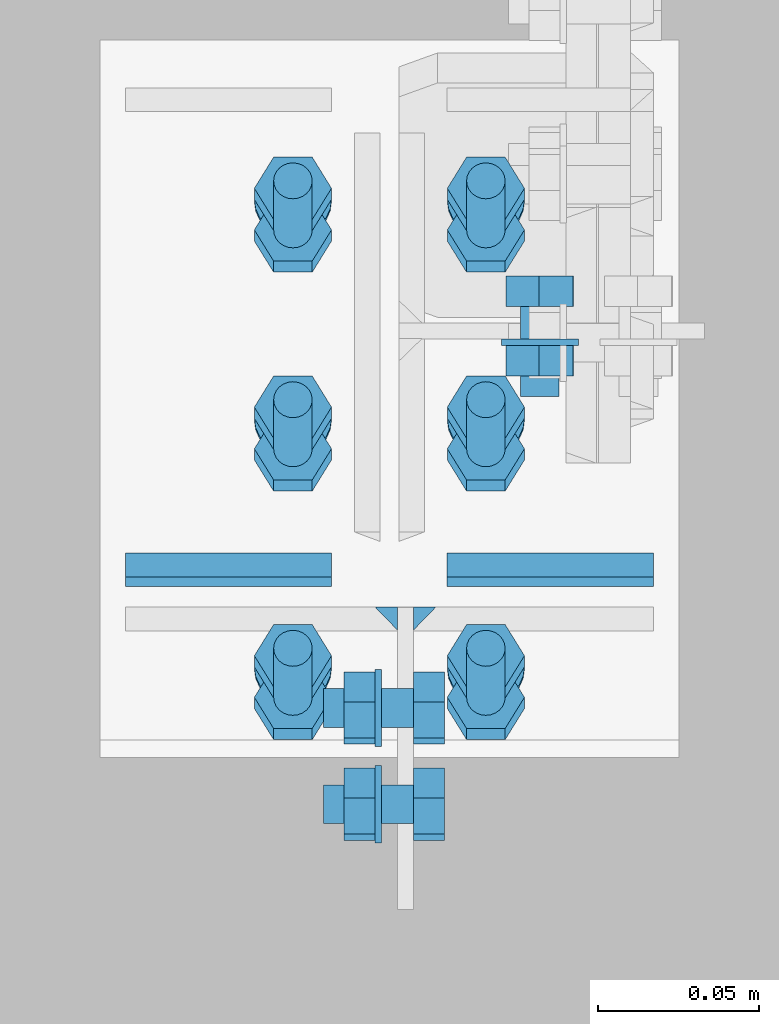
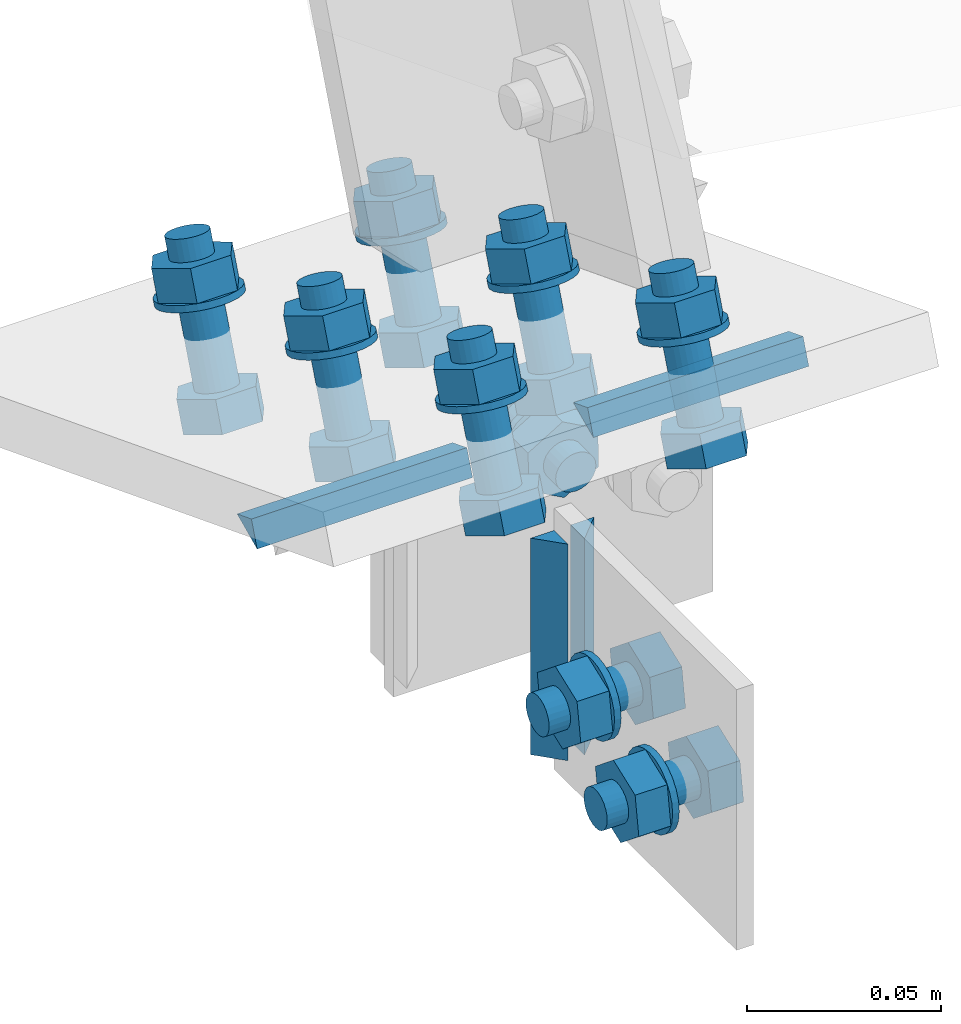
# One storey, part 40 of 72: 36 mechanical fasteners, 6 fasteners.
"""IFC4 building model written with IfcOpenShell, lengths in metres."""

import ifcopenshell
import ifcopenshell.guid

model = None  # the IFC model being written
_history = None  # IfcOwnerHistory: only IFC2X3 demands one
_inside = {}  # id of a spatial element -> (the spatial element, [elements in it])
_under = {}  # id of a project, library or spatial element -> (it, [spatial elements below it])
_declared = {}  # id of a project -> (the project, [libraries it declares])
_typed = {}  # id of a type object -> (the type object, [elements of that type])
_made_of = {}  # id of a material, layer set ... -> (it, [elements and type objects made of it])


def new_model(schema):
    """Start an empty IFC model of exactly this schema.

    Asked for "IFC4X3", IfcOpenShell would pick the latest addendum, in which some entities
    have other attributes; the version numbers below select the first issue.
    IFC2X3 requires an IfcOwnerHistory on every rooted entity: one is made here for all.
    """
    global model, _history
    if schema == "IFC4X3":
        model = ifcopenshell.file(schema_version=(4, 3, 0, 0))
    else:
        model = ifcopenshell.file(schema=schema)
    _inside.clear()
    _under.clear()
    _declared.clear()
    _typed.clear()
    _made_of.clear()
    _history = None
    if model.schema == "IFC2X3":
        org = make("IfcOrganization", Name="unknown")
        user = make(
            "IfcPersonAndOrganization",
            ThePerson=make("IfcPerson", FamilyName="unknown"),
            TheOrganization=org,
        )
        app = make(
            "IfcApplication",
            ApplicationDeveloper=org,
            Version="unknown",
            ApplicationFullName="unknown",
            ApplicationIdentifier="unknown",
        )
        _history = make(
            "IfcOwnerHistory",
            OwningUser=user,
            OwningApplication=app,
            ChangeAction="ADDED",
            CreationDate=0,
        )
    return model


def make(cls, **values):
    """One entity of the class cls with the attributes given. An attribute that is None is left unset."""
    return model.create_entity(
        cls, **{name: value for name, value in values.items() if value is not None}
    )


def rooted(cls, **values):
    """An entity with a GlobalId (a new one), such as an element, a storey or a relation."""
    return make(cls, GlobalId=ifcopenshell.guid.new(), OwnerHistory=_history, **values)


def si_unit(unit_type, name, prefix=None):
    """IfcSIUnit, for example si_unit("LENGTHUNIT", "METRE", prefix="MILLI")."""
    return make("IfcSIUnit", UnitType=unit_type, Prefix=prefix, Name=name)


def assignment(units):
    """IfcUnitAssignment: the units of a project."""
    return None if units is None else make("IfcUnitAssignment", Units=units)


def point(xyz):
    """IfcCartesianPoint."""
    return None if xyz is None else make("IfcCartesianPoint", Coordinates=xyz)


def direction(xyz):
    """IfcDirection."""
    return None if xyz is None else make("IfcDirection", DirectionRatios=xyz)


def frame(location, z_axis=None, x_axis=None):
    """IfcAxis2Placement3D, a coordinate frame: its origin and axes. An axis left out is left unset."""
    return make(
        "IfcAxis2Placement3D",
        Location=point(location),
        Axis=direction(z_axis),
        RefDirection=direction(x_axis),
    )


def origin_with_axes():
    """The frame at (0, 0, 0) with the z axis (0, 0, 1) and the x axis (1, 0, 0) written out."""
    return frame((0.0, 0.0, 0.0), z_axis=(0.0, 0.0, 1.0), x_axis=(1.0, 0.0, 0.0))


def place(relative_to, where):
    """IfcLocalPlacement: puts the frame where relative to a parent placement (None: the world)."""
    return make(
        "IfcLocalPlacement", PlacementRelTo=relative_to, RelativePlacement=where
    )


def context(
    kind, dimensions, precision=None, world=None, true_north=None, identifier=None
):
    """IfcGeometricRepresentationContext, for example the 3D "Model" context."""
    return make(
        "IfcGeometricRepresentationContext",
        ContextIdentifier=identifier,
        ContextType=kind,
        CoordinateSpaceDimension=dimensions,
        Precision=precision,
        WorldCoordinateSystem=world,
        TrueNorth=true_north,
    )


def project(units=None, contexts=None):
    """IfcProject with its units and contexts."""
    return rooted(
        "IfcProject",
        Name="project",
        RepresentationContexts=contexts,
        UnitsInContext=assignment(units),
    )


def spatial(cls, under=None, at=None, **own):
    """A site, building, storey or space (cls), placed at a placement, below another one or the project."""
    s = rooted(cls, ObjectPlacement=at, **own)
    if under is not None:
        _under.setdefault(under.id(), (under, []))[1].append(s)
    return s


def polyline(points):
    """IfcPolyline through the points."""
    return make("IfcPolyline", Points=[point(p) for p in points])


def outline(outer, holes=None, kind="AREA"):
    """IfcArbitraryClosedProfileDef: a profile drawn as a closed curve; with holes, ...WithVoids."""
    if holes is None:
        return make("IfcArbitraryClosedProfileDef", ProfileType=kind, OuterCurve=outer)
    return make(
        "IfcArbitraryProfileDefWithVoids",
        ProfileType=kind,
        OuterCurve=outer,
        InnerCurves=holes,
    )


def extrude(swept, where, along, depth):
    """IfcExtrudedAreaSolid: the profile swept, set in the frame where, extruded along a direction by depth."""
    return make(
        "IfcExtrudedAreaSolid",
        SweptArea=swept,
        Position=where,
        ExtrudedDirection=direction(along),
        Depth=depth,
    )


def shape(context_of_items, identifier, shape_type, items):
    """IfcShapeRepresentation: the items that make up one representation, for example the "Body"."""
    return make(
        "IfcShapeRepresentation",
        ContextOfItems=context_of_items,
        RepresentationIdentifier=identifier,
        RepresentationType=shape_type,
        Items=items,
    )


def made_of(thing, what):
    """Note that an element or type object is made of a material, layer set ...; save() writes the relation."""
    if what is not None:
        _made_of.setdefault(what.id(), (what, []))[1].append(thing)
    return thing


def type_object(cls, material=None, **own):
    """A type object (cls), such as IfcWallType, which elements share."""
    return made_of(rooted(cls, **own), material)


def element(
    cls,
    number,
    at=None,
    inside=None,
    cuts=None,
    type_object=None,
    material=None,
    context=None,
    identifier="Body",
    shape_type=None,
    held_by="IfcProductDefinitionShape",
    body=None,
    shapes=None,
    **own,
):
    """One element of the class cls, such as IfcWall. Its Tag is "e" and its number.

    at: its placement. inside: the storey or other place that contains it. cuts: it is an
    opening in that element (IfcRelVoidsElement). A single representation is given by context,
    identifier, shape_type and body (its items); several are given by shapes. held_by: the class
    of the entity that holds the representations. save() writes the other relations.
    """
    e = rooted(cls, Tag="e%d" % number, ObjectPlacement=at, **own)
    if body is not None:
        shapes = [shape(context, identifier, shape_type, body)]
    if shapes is not None:
        e.Representation = make(held_by, Representations=shapes)
    if inside is not None:
        _inside.setdefault(inside.id(), (inside, []))[1].append(e)
    if cuts is not None:
        rooted(
            "IfcRelVoidsElement", RelatingBuildingElement=cuts, RelatedOpeningElement=e
        )
    if type_object is not None:
        _typed.setdefault(type_object.id(), (type_object, []))[1].append(e)
    return made_of(e, material)


def aggregate(whole, parts):
    """IfcRelAggregates: a whole, such as a stair, and the parts it consists of."""
    return rooted("IfcRelAggregates", RelatingObject=whole, RelatedObjects=parts)


def save(model, path):
    """Write the relations noted so far, then the file.

    IfcRelAggregates (storeys below a building ...), IfcRelContainedInSpatialStructure (elements
    in a storey), IfcRelDefinesByType, IfcRelAssociatesMaterial and IfcRelDeclares: one each for
    every whole, place, type object, material and project.
    """
    for whole, parts in _under.values():
        aggregate(whole, parts)
    for where, things in _inside.values():
        rooted(
            "IfcRelContainedInSpatialStructure",
            RelatedElements=things,
            RelatingStructure=where,
        )
    for kind, things in _typed.values():
        rooted("IfcRelDefinesByType", RelatedObjects=things, RelatingType=kind)
    for what, things in _made_of.values():
        rooted("IfcRelAssociatesMaterial", RelatedObjects=things, RelatingMaterial=what)
    for by, libraries in _declared.values():
        rooted("IfcRelDeclares", RelatingContext=by, RelatedDefinitions=libraries)
    model.write(path)


model = new_model("IFC4")

# Units and contexts
model_context = context("Model", 3, precision=1e-05, world=origin_with_axes())
ifc_project = project(units=[si_unit("LENGTHUNIT", "METRE"), si_unit("AREAUNIT", "SQUARE_METRE"), si_unit("VOLUMEUNIT", "CUBIC_METRE"), si_unit("MASSUNIT", "GRAM", prefix="KILO"), si_unit("TIMEUNIT", "SECOND"), si_unit("PLANEANGLEUNIT", "RADIAN"), si_unit("SOLIDANGLEUNIT", "STERADIAN"), si_unit("THERMODYNAMICTEMPERATUREUNIT", "DEGREE_CELSIUS")], contexts=[model_context])

# Site, building, storey
placement_1 = place(None, origin_with_axes())
site = spatial("IfcSite", under=ifc_project, at=placement_1, Name="Italia", CompositionType="ELEMENT")
building = spatial("IfcBuilding", under=site, at=placement_1, Name="Uffici", CompositionType="ELEMENT")
storey = spatial("IfcBuildingStorey", under=building, at=placement_1, Name="Storey 0", CompositionType="ELEMENT", Elevation=0.0)

# Mechanical fasteners
mechanical_fastener_type_1 = type_object("IfcMechanicalFastenerType", Name="Collegamento 0206_0101", PredefinedType="BOLT")
placement_2 = place(placement_1, origin_with_axes())
mechanical_fastener_1_placement = place(placement_2, origin_with_axes())
element("IfcMechanicalFastener", 1, at=mechanical_fastener_1_placement, inside=storey, type_object=mechanical_fastener_type_1, Name="Collegamento 0206_0101", NominalDiameter=0.0119996, context=model_context, shape_type="SweptSolid", body=[
    extrude(outline(polyline([(0.0, 0.0), (0.01122, 0.00425482), (0.0131454, 0.0160995), (0.00385046, 0.0236893), (-0.00737, 0.019434), (-0.00929546, 0.00758934), (0.0, 0.0)])), frame((0.0075, 4.69577, 5.0804), z_axis=(1.0, 0.0, 0.0), x_axis=(0.0, 1.0, 0.0)), (0.0, 0.0, 1.0), 0.0096),
])
mechanical_fastener_type_2 = type_object("IfcMechanicalFastenerType", Name="Collegamento 0206_0101", PredefinedType="BOLT")
mechanical_fastener_2_placement = place(placement_2, origin_with_axes())
element("IfcMechanicalFastener", 2, at=mechanical_fastener_2_placement, inside=storey, type_object=mechanical_fastener_type_2, Name="Collegamento 0206_0101", NominalDiameter=0.012, context=model_context, shape_type="SweptSolid", body=[
    extrude(outline(polyline([(0.0, 0.0), (-0.000204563, -0.00155306), (-0.000803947, -0.00299978), (-0.00175762, -0.00424242), (-0.00300026, -0.00519609), (-0.00444698, -0.00579548), (-0.00600004, -0.00600004), (-0.0075531, -0.00579548), (-0.00899982, -0.00519609), (-0.0102425, -0.00424242), (-0.0111961, -0.00299978), (-0.0117955, -0.00155306), (-0.0120001, 0.0), (-0.0117955, 0.00155306), (-0.0111961, 0.00299978), (-0.0102425, 0.00424242), (-0.00899982, 0.00519609), (-0.0075531, 0.00579548), (-0.00600004, 0.00600004), (-0.00444698, 0.00579548), (-0.00300026, 0.00519609), (-0.00175762, 0.00424242), (-0.000803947, 0.00299978), (-0.000204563, 0.00155306), (0.0, 0.0)])), frame((-0.0205, 4.7037, 5.09225), z_axis=(1.0, 0.0, 0.0), x_axis=(0.0, 1.0, 0.0)), (0.0, 0.0, 1.0), 0.028),
])
mechanical_fastener_type_3 = type_object("IfcMechanicalFastenerType", Name="Collegamento 0206_0101", PredefinedType="BOLT")
mechanical_fastener_3_placement = place(placement_2, origin_with_axes())
element("IfcMechanicalFastener", 3, at=mechanical_fastener_3_placement, inside=storey, type_object=mechanical_fastener_type_3, Name="Collegamento 0206_0101", NominalDiameter=0.0119996, context=model_context, shape_type="SweptSolid", body=[
    extrude(outline(polyline([(0.0, 0.0), (0.01122, 0.00425482), (0.0131454, 0.0160995), (0.00385046, 0.0236893), (-0.00737, 0.019434), (-0.00929546, 0.00758934), (0.0, 0.0)])), frame((-0.0141, 4.69577, 5.0804), z_axis=(1.0, 0.0, 0.0), x_axis=(0.0, 1.0, 0.0)), (0.0, 0.0, 1.0), 0.0096),
])
mechanical_fastener_type_4 = type_object("IfcMechanicalFastenerType", Name="Collegamento 0206_0101", PredefinedType="BOLT")
mechanical_fastener_4_placement = place(placement_2, origin_with_axes())
element("IfcMechanicalFastener", 4, at=mechanical_fastener_4_placement, inside=storey, type_object=mechanical_fastener_type_4, Name="Collegamento 0206_0101", NominalDiameter=0.024, context=model_context, shape_type="SweptSolid", body=[
    extrude(outline(polyline([(0.0, 0.0), (-0.000409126, -0.00310564), (-0.00160789, -0.00600004), (-0.00351477, -0.00848532), (-0.00600004, -0.0103922), (-0.00889444, -0.011591), (-0.0120001, -0.0120001), (-0.0151057, -0.011591), (-0.0180001, -0.0103922), (-0.0204854, -0.00848532), (-0.0223923, -0.00600004), (-0.023591, -0.00310564), (-0.0240002, 0.0), (-0.023591, 0.00310564), (-0.0223923, 0.00600004), (-0.0204854, 0.00848532), (-0.0180001, 0.0103922), (-0.0151057, 0.011591), (-0.0120001, 0.0120001), (-0.00889444, 0.011591), (-0.00600004, 0.0103922), (-0.00351477, 0.00848532), (-0.00160789, 0.00600004), (-0.000409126, 0.00310564), (0.0, 0.0)])), frame((-0.0045, 4.7097, 5.09225), z_axis=(1.0, 0.0, 0.0), x_axis=(0.0, 1.0, 0.0)), (0.0, 0.0, 1.0), 0.002),
])
mechanical_fastener_type_5 = type_object("IfcMechanicalFastenerType", Name="Collegamento 0206_0101", PredefinedType="BOLT")
mechanical_fastener_5_placement = place(placement_2, origin_with_axes())
element("IfcMechanicalFastener", 5, at=mechanical_fastener_5_placement, inside=storey, type_object=mechanical_fastener_type_5, Name="Collegamento 0206_0101", NominalDiameter=0.0119996, context=model_context, shape_type="SweptSolid", body=[
    extrude(outline(polyline([(0.0, 0.0), (0.0112205, 0.00425529), (0.0131454, 0.0160995), (0.00385046, 0.0236893), (-0.00736952, 0.0194345), (-0.00929499, 0.00758982), (0.0, 0.0)])), frame((0.0075, 4.66585, 5.06906), z_axis=(1.0, 0.0, 0.0), x_axis=(0.0, 1.0, 0.0)), (0.0, 0.0, 1.0), 0.0096),
])
mechanical_fastener_type_6 = type_object("IfcMechanicalFastenerType", Name="Collegamento 0206_0101", PredefinedType="BOLT")
mechanical_fastener_6_placement = place(placement_2, origin_with_axes())
element("IfcMechanicalFastener", 6, at=mechanical_fastener_6_placement, inside=storey, type_object=mechanical_fastener_type_6, Name="Collegamento 0206_0101", NominalDiameter=0.012, context=model_context, shape_type="SweptSolid", body=[
    extrude(outline(polyline([(0.0, 0.0), (-0.000204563, -0.00155306), (-0.000803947, -0.00299978), (-0.00175762, -0.00424242), (-0.00300026, -0.00519609), (-0.00444698, -0.00579548), (-0.00600004, -0.00600004), (-0.0075531, -0.00579548), (-0.00899982, -0.00519609), (-0.0102425, -0.00424242), (-0.0111961, -0.00299978), (-0.0117955, -0.00155306), (-0.0120001, 0.0), (-0.0117955, 0.00155306), (-0.0111961, 0.00299978), (-0.0102425, 0.00424242), (-0.00899982, 0.00519609), (-0.0075531, 0.00579548), (-0.00600004, 0.00600004), (-0.00444698, 0.00579548), (-0.00300026, 0.00519609), (-0.00175762, 0.00424242), (-0.000803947, 0.00299978), (-0.000204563, 0.00155306), (0.0, 0.0)])), frame((-0.0205, 4.67377, 5.0809), z_axis=(1.0, 0.0, 0.0), x_axis=(0.0, 1.0, 0.0)), (0.0, 0.0, 1.0), 0.028),
])
mechanical_fastener_type_7 = type_object("IfcMechanicalFastenerType", Name="Collegamento 0206_0101", PredefinedType="BOLT")
mechanical_fastener_7_placement = place(placement_2, origin_with_axes())
element("IfcMechanicalFastener", 7, at=mechanical_fastener_7_placement, inside=storey, type_object=mechanical_fastener_type_7, Name="Collegamento 0206_0101", NominalDiameter=0.0119996, context=model_context, shape_type="SweptSolid", body=[
    extrude(outline(polyline([(0.0, 0.0), (0.0112205, 0.00425529), (0.0131454, 0.0160995), (0.00385046, 0.0236893), (-0.00736952, 0.0194345), (-0.00929499, 0.00758982), (0.0, 0.0)])), frame((-0.0141, 4.66585, 5.06906), z_axis=(1.0, 0.0, 0.0), x_axis=(0.0, 1.0, 0.0)), (0.0, 0.0, 1.0), 0.0096),
])
mechanical_fastener_type_8 = type_object("IfcMechanicalFastenerType", Name="Collegamento 0206_0101", PredefinedType="BOLT")
mechanical_fastener_8_placement = place(placement_2, origin_with_axes())
element("IfcMechanicalFastener", 8, at=mechanical_fastener_8_placement, inside=storey, type_object=mechanical_fastener_type_8, Name="Collegamento 0206_0101", NominalDiameter=0.024, context=model_context, shape_type="SweptSolid", body=[
    extrude(outline(polyline([(0.0, 0.0), (-0.000409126, -0.00310564), (-0.00160789, -0.00600004), (-0.00351477, -0.00848532), (-0.00600004, -0.0103922), (-0.00889444, -0.011591), (-0.0120001, -0.0120001), (-0.0151057, -0.011591), (-0.0180001, -0.0103922), (-0.0204854, -0.00848532), (-0.0223923, -0.00600004), (-0.023591, -0.00310564), (-0.0240002, 0.0), (-0.023591, 0.00310564), (-0.0223923, 0.00600004), (-0.0204854, 0.00848532), (-0.0180001, 0.0103922), (-0.0151057, 0.011591), (-0.0120001, 0.0120001), (-0.00889444, 0.011591), (-0.00600004, 0.0103922), (-0.00351477, 0.00848532), (-0.00160789, 0.00600004), (-0.000409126, 0.00310564), (0.0, 0.0)])), frame((-0.0045, 4.67977, 5.0809), z_axis=(1.0, 0.0, 0.0), x_axis=(0.0, 1.0, 0.0)), (0.0, 0.0, 1.0), 0.002),
])

# Fasteners
fastener_type_1 = type_object("IfcFastenerType", Name="Collegamento 0206_0101", PredefinedType="WELD")
fastener_1_placement = place(placement_2, origin_with_axes())
element("IfcFastener", 9, at=fastener_1_placement, inside=storey, type_object=fastener_type_1, Name="Collegamento 0206_0101", context=model_context, shape_type="SweptSolid", body=[
    extrude(outline(polyline([(0.0, 0.0), (-0.00717354, 0.00695816), (0.0, 0.00695816), (0.0, 0.0)])), frame((-0.00440816, 4.72905, 5.12317), z_axis=(0.0, 0.0, -1.0), x_axis=(0.0, 1.0, 0.0)), (0.0, 0.0, 1.0), 0.0681),
])
fastener_type_2 = type_object("IfcFastenerType", Name="Collegamento 0206_0101", PredefinedType="WELD")
fastener_2_placement = place(placement_2, origin_with_axes())
element("IfcFastener", 10, at=fastener_2_placement, inside=storey, type_object=fastener_type_2, Name="Collegamento 0206_0101", context=model_context, shape_type="SweptSolid", body=[
    extrude(outline(polyline([(0.0, 0.0), (-0.00717354, 0.00695816), (0.0, 0.00695816), (0.0, 0.0)])), frame((0.0144082, 4.72905, 5.05507), z_axis=(0.0, 0.0, 1.0), x_axis=(0.0, 1.0, 0.0)), (0.0, 0.0, 1.0), 0.0681005),
])
fastener_type_3 = type_object("IfcFastenerType", Name="Collegamento 0206_0106", PredefinedType="WELD")
fastener_3_placement = place(placement_2, origin_with_axes())
element("IfcFastener", 11, at=fastener_3_placement, inside=storey, type_object=fastener_type_3, Name="Collegamento 0206_0106", context=model_context, shape_type="SweptSolid", body=[
    extrude(outline(polyline([(0.0, 0.0), (-0.0103469, -0.00475407), (-0.00739193, 0.00286627), (0.0, 0.0)])), frame((0.01795, 4.74586, 5.14777), z_axis=(1.0, 0.0, 0.0), x_axis=(0.0, 1.0, 0.0)), (0.0, 0.0, 1.0), 0.0641),
])
fastener_type_4 = type_object("IfcFastenerType", Name="Collegamento 0206_0106", PredefinedType="WELD")
fastener_4_placement = place(placement_2, origin_with_axes())
element("IfcFastener", 12, at=fastener_4_placement, inside=storey, type_object=fastener_type_4, Name="Collegamento 0206_0106", context=model_context, shape_type="SweptSolid", body=[
    extrude(outline(polyline([(0.0, 0.0), (-0.0103469, -0.00475407), (-0.00739193, 0.00286627), (0.0, 0.0)])), frame((-0.08205, 4.74586, 5.14777), z_axis=(1.0, 0.0, 0.0), x_axis=(0.0, 1.0, 0.0)), (0.0, 0.0, 1.0), 0.0641),
])
fastener_type_5 = type_object("IfcFastenerType", Name="Collegamento 0206_0106", PredefinedType="WELD")
fastener_5_placement = place(placement_2, origin_with_axes())
element("IfcFastener", 13, at=fastener_5_placement, inside=storey, type_object=fastener_type_5, Name="Collegamento 0206_0106", context=model_context, shape_type="SweptSolid", body=[
    extrude(outline(polyline([(0.0, 0.0), (-0.0103469, -0.00475407), (-0.00739193, 0.00286627), (0.0, 0.0)])), frame((0.01795, 4.74586, 5.14777), z_axis=(1.0, 0.0, 0.0), x_axis=(0.0, 1.0, 0.0)), (0.0, 0.0, 1.0), 0.0641),
])
fastener_type_6 = type_object("IfcFastenerType", Name="Collegamento 0206_0106", PredefinedType="WELD")
fastener_6_placement = place(placement_2, origin_with_axes())
element("IfcFastener", 14, at=fastener_6_placement, inside=storey, type_object=fastener_type_6, Name="Collegamento 0206_0106", context=model_context, shape_type="SweptSolid", body=[
    extrude(outline(polyline([(0.0, 0.0), (-0.0103469, -0.00475407), (-0.00739193, 0.00286627), (0.0, 0.0)])), frame((-0.08205, 4.74586, 5.14777), z_axis=(1.0, 0.0, 0.0), x_axis=(0.0, 1.0, 0.0)), (0.0, 0.0, 1.0), 0.0641),
])

# Mechanical fasteners
mechanical_fastener_type_9 = type_object("IfcMechanicalFastenerType", Name="Collegamento 0206_0106", PredefinedType="BOLT")
mechanical_fastener_9_placement = place(placement_2, origin_with_axes())
element("IfcMechanicalFastener", 15, at=mechanical_fastener_9_placement, inside=storey, type_object=mechanical_fastener_type_9, Name="Collegamento 0206_0106", NominalDiameter=0.0119999, context=model_context, shape_type="SweptSolid", body=[
    extrude(outline(polyline([(0.0, 0.0), (0.012, 0.0), (0.018, -0.0103922), (0.012, -0.0207846), (0.0, -0.0207846), (-0.006, -0.0103922), (0.0, 0.0)])), frame((0.024, 4.76862, 5.1389), z_axis=(0.0, -0.361504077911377, -0.932370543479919), x_axis=(1.0, 0.0, 0.0)), (0.0, 0.0, 1.0), 0.00959995),
])
mechanical_fastener_type_10 = type_object("IfcMechanicalFastenerType", Name="Collegamento 0206_0106", PredefinedType="BOLT")
mechanical_fastener_10_placement = place(placement_2, origin_with_axes())
element("IfcMechanicalFastener", 16, at=mechanical_fastener_10_placement, inside=storey, type_object=mechanical_fastener_type_10, Name="Collegamento 0206_0106", NominalDiameter=0.012, context=model_context, shape_type="SweptSolid", body=[
    extrude(outline(polyline([(0.0, 0.0), (-0.000204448, -0.00155282), (-0.000803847, -0.00300002), (-0.00175736, -0.00424314), (-0.003, -0.00519633), (-0.00444709, -0.00579524), (-0.006, -0.0059998), (-0.00755292, -0.00579524), (-0.009, -0.00519633), (-0.0102426, -0.00424314), (-0.0111962, -0.00300002), (-0.0117956, -0.00155282), (-0.012, 0.0), (-0.0117956, 0.00155282), (-0.0111962, 0.00300002), (-0.0102426, 0.0042429), (-0.009, 0.00519633), (-0.00755291, 0.00579572), (-0.006, 0.0059998), (-0.00444709, 0.00579572), (-0.003, 0.00519633), (-0.00175736, 0.0042429), (-0.000803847, 0.00300002), (-0.000204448, 0.00155282), (0.0, 0.0)])), frame((0.036, 4.79357, 5.17448), z_axis=(0.0, -0.361535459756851, -0.932358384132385), x_axis=(1.0, 0.0, 0.0)), (0.0, 0.0, 1.0), 0.0422002),
])
mechanical_fastener_type_11 = type_object("IfcMechanicalFastenerType", Name="Collegamento 0206_0106", PredefinedType="BOLT")
mechanical_fastener_11_placement = place(placement_2, origin_with_axes())
element("IfcMechanicalFastener", 17, at=mechanical_fastener_11_placement, inside=storey, type_object=mechanical_fastener_type_11, Name="Collegamento 0206_0106", NominalDiameter=0.0119999, context=model_context, shape_type="SweptSolid", body=[
    extrude(outline(polyline([(0.0, 0.0), (0.012, 0.0), (0.018, -0.0103927), (0.012, -0.0207846), (0.0, -0.0207846), (-0.006, -0.0103927), (0.0, 0.0)])), frame((0.024, 4.78156, 5.17227), z_axis=(0.0, -0.361563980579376, -0.932347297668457), x_axis=(1.0, 0.0, 0.0)), (0.0, 0.0, 1.0), 0.00959968),
])
mechanical_fastener_type_12 = type_object("IfcMechanicalFastenerType", Name="Collegamento 0206_0106", PredefinedType="BOLT")
mechanical_fastener_12_placement = place(placement_2, origin_with_axes())
element("IfcMechanicalFastener", 18, at=mechanical_fastener_12_placement, inside=storey, type_object=mechanical_fastener_type_12, Name="Collegamento 0206_0106", NominalDiameter=0.024, context=model_context, shape_type="SweptSolid", body=[
    extrude(outline(polyline([(0.0, 0.0), (-0.000408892, -0.00310612), (-0.0016077, -0.00600004), (-0.00351472, -0.00848579), (-0.006, -0.0103927), (-0.00889417, -0.0115914), (-0.012, -0.0120001), (-0.0151058, -0.0115914), (-0.018, -0.0103927), (-0.0204853, -0.00848579), (-0.0223923, -0.00600004), (-0.0235911, -0.00310612), (-0.024, 0.0), (-0.0235911, 0.00310564), (-0.0223923, 0.00600004), (-0.0204853, 0.00848532), (-0.018, 0.0103922), (-0.0151058, 0.0115914), (-0.012, 0.0119996), (-0.00889418, 0.0115914), (-0.006, 0.0103922), (-0.00351472, 0.00848532), (-0.00160769, 0.00600004), (-0.000408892, 0.00310564), (0.0, 0.0)])), frame((0.042, 4.78778, 5.15957), z_axis=(0.0, -0.361341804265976, -0.932433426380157), x_axis=(1.0, 0.0, 0.0)), (0.0, 0.0, 1.0), 0.00200056),
])
mechanical_fastener_type_13 = type_object("IfcMechanicalFastenerType", Name="Collegamento 0206_0106", PredefinedType="BOLT")
mechanical_fastener_13_placement = place(placement_2, origin_with_axes())
element("IfcMechanicalFastener", 19, at=mechanical_fastener_13_placement, inside=storey, type_object=mechanical_fastener_type_13, Name="Collegamento 0206_0106", NominalDiameter=0.0119999, context=model_context, shape_type="SweptSolid", body=[
    extrude(outline(polyline([(0.0, 0.0), (0.012, 0.0), (0.018, -0.0103922), (0.012, -0.0207846), (0.0, -0.0207846), (-0.006, -0.0103922), (0.0, 0.0)])), frame((-0.036, 4.76862, 5.1389), z_axis=(0.0, -0.361504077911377, -0.932370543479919), x_axis=(1.0, 0.0, 0.0)), (0.0, 0.0, 1.0), 0.00959995),
])
mechanical_fastener_type_14 = type_object("IfcMechanicalFastenerType", Name="Collegamento 0206_0106", PredefinedType="BOLT")
mechanical_fastener_14_placement = place(placement_2, origin_with_axes())
element("IfcMechanicalFastener", 20, at=mechanical_fastener_14_placement, inside=storey, type_object=mechanical_fastener_type_14, Name="Collegamento 0206_0106", NominalDiameter=0.012, context=model_context, shape_type="SweptSolid", body=[
    extrude(outline(polyline([(0.0, 0.0), (-0.000204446, -0.00155282), (-0.000803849, -0.00300002), (-0.00175736, -0.00424314), (-0.003, -0.00519633), (-0.00444709, -0.00579524), (-0.006, -0.0059998), (-0.00755291, -0.00579524), (-0.009, -0.00519633), (-0.0102426, -0.00424314), (-0.0111962, -0.00300002), (-0.0117956, -0.00155282), (-0.012, 0.0), (-0.0117956, 0.00155282), (-0.0111962, 0.00300002), (-0.0102426, 0.0042429), (-0.009, 0.00519633), (-0.00755291, 0.00579572), (-0.006, 0.0059998), (-0.00444709, 0.00579572), (-0.003, 0.00519633), (-0.00175736, 0.0042429), (-0.000803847, 0.00300002), (-0.000204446, 0.00155282), (0.0, 0.0)])), frame((-0.024, 4.79357, 5.17448), z_axis=(0.0, -0.361535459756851, -0.932358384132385), x_axis=(1.0, 0.0, 0.0)), (0.0, 0.0, 1.0), 0.0422002),
])
mechanical_fastener_type_15 = type_object("IfcMechanicalFastenerType", Name="Collegamento 0206_0106", PredefinedType="BOLT")
mechanical_fastener_15_placement = place(placement_2, origin_with_axes())
element("IfcMechanicalFastener", 21, at=mechanical_fastener_15_placement, inside=storey, type_object=mechanical_fastener_type_15, Name="Collegamento 0206_0106", NominalDiameter=0.0119999, context=model_context, shape_type="SweptSolid", body=[
    extrude(outline(polyline([(0.0, 0.0), (0.012, 0.0), (0.018, -0.0103927), (0.012, -0.0207846), (0.0, -0.0207846), (-0.006, -0.0103927), (0.0, 0.0)])), frame((-0.036, 4.78156, 5.17227), z_axis=(0.0, -0.361563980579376, -0.932347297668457), x_axis=(1.0, 0.0, 0.0)), (0.0, 0.0, 1.0), 0.00959968),
])
mechanical_fastener_type_16 = type_object("IfcMechanicalFastenerType", Name="Collegamento 0206_0106", PredefinedType="BOLT")
mechanical_fastener_16_placement = place(placement_2, origin_with_axes())
element("IfcMechanicalFastener", 22, at=mechanical_fastener_16_placement, inside=storey, type_object=mechanical_fastener_type_16, Name="Collegamento 0206_0106", NominalDiameter=0.024, context=model_context, shape_type="SweptSolid", body=[
    extrude(outline(polyline([(0.0, 0.0), (-0.00040889, -0.00310612), (-0.0016077, -0.00600004), (-0.00351472, -0.00848579), (-0.006, -0.0103927), (-0.00889417, -0.0115914), (-0.012, -0.0120001), (-0.0151058, -0.0115914), (-0.018, -0.0103927), (-0.0204853, -0.00848579), (-0.0223923, -0.00600004), (-0.0235911, -0.00310612), (-0.024, 0.0), (-0.0235911, 0.00310564), (-0.0223923, 0.00600004), (-0.0204853, 0.00848532), (-0.018, 0.0103922), (-0.0151058, 0.0115914), (-0.012, 0.0119996), (-0.00889417, 0.0115914), (-0.006, 0.0103922), (-0.00351472, 0.00848532), (-0.00160769, 0.00600004), (-0.00040889, 0.00310564), (0.0, 0.0)])), frame((-0.018, 4.78778, 5.15957), z_axis=(0.0, -0.361341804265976, -0.932433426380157), x_axis=(1.0, 0.0, 0.0)), (0.0, 0.0, 1.0), 0.00200056),
])
mechanical_fastener_type_17 = type_object("IfcMechanicalFastenerType", Name="Collegamento 0206_0106", PredefinedType="BOLT")
mechanical_fastener_17_placement = place(placement_2, origin_with_axes())
element("IfcMechanicalFastener", 23, at=mechanical_fastener_17_placement, inside=storey, type_object=mechanical_fastener_type_17, Name="Collegamento 0206_0106", NominalDiameter=0.012, context=model_context, shape_type="SweptSolid", body=[
    extrude(outline(polyline([(0.0, 0.0), (0.012, 0.0), (0.018, -0.0103924), (0.012, -0.0207853), (0.0, -0.0207853), (-0.006, -0.0103924), (0.0, 0.0)])), frame((0.024, 4.83668, 5.1125), z_axis=(0.0, -0.361504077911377, -0.932370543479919), x_axis=(1.0, 0.0, 0.0)), (0.0, 0.0, 1.0), 0.00959995),
])
mechanical_fastener_type_18 = type_object("IfcMechanicalFastenerType", Name="Collegamento 0206_0106", PredefinedType="BOLT")
mechanical_fastener_18_placement = place(placement_2, origin_with_axes())
element("IfcMechanicalFastener", 24, at=mechanical_fastener_18_placement, inside=storey, type_object=mechanical_fastener_type_18, Name="Collegamento 0206_0106", NominalDiameter=0.012, context=model_context, shape_type="SweptSolid", body=[
    extrude(outline(polyline([(0.0, 0.0), (-0.000204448, -0.00155306), (-0.000803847, -0.00300002), (-0.00175736, -0.0042429), (-0.003, -0.00519657), (-0.00444709, -0.00579596), (-0.006, -0.00600052), (-0.00755292, -0.00579596), (-0.009, -0.00519657), (-0.0102426, -0.0042429), (-0.0111962, -0.00300002), (-0.0117956, -0.00155306), (-0.012, 0.0), (-0.0117956, 0.00155258), (-0.0111962, 0.00299978), (-0.0102426, 0.0042429), (-0.009, 0.00519609), (-0.00755291, 0.00579548), (-0.006, 0.00599957), (-0.00444709, 0.00579548), (-0.003, 0.00519609), (-0.00175736, 0.0042429), (-0.000803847, 0.00299978), (-0.000204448, 0.00155258), (0.0, 0.0)])), frame((0.036, 4.86163, 5.14809), z_axis=(0.0, -0.361519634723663, -0.932364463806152), x_axis=(1.0, 0.0, 0.0)), (0.0, 0.0, 1.0), 0.0421994),
])
mechanical_fastener_type_19 = type_object("IfcMechanicalFastenerType", Name="Collegamento 0206_0106", PredefinedType="BOLT")
mechanical_fastener_19_placement = place(placement_2, origin_with_axes())
element("IfcMechanicalFastener", 25, at=mechanical_fastener_19_placement, inside=storey, type_object=mechanical_fastener_type_19, Name="Collegamento 0206_0106", NominalDiameter=0.0119999, context=model_context, shape_type="SweptSolid", body=[
    extrude(outline(polyline([(0.0, 0.0), (0.012, 0.0), (0.018, -0.0103922), (0.012, -0.0207846), (0.0, -0.0207846), (-0.006, -0.0103922), (0.0, 0.0)])), frame((0.024, 4.84962, 5.14588), z_axis=(0.0, -0.361504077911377, -0.932370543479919), x_axis=(1.0, 0.0, 0.0)), (0.0, 0.0, 1.0), 0.00959995),
])
mechanical_fastener_type_20 = type_object("IfcMechanicalFastenerType", Name="Collegamento 0206_0106", PredefinedType="BOLT")
mechanical_fastener_20_placement = place(placement_2, origin_with_axes())
element("IfcMechanicalFastener", 26, at=mechanical_fastener_20_placement, inside=storey, type_object=mechanical_fastener_type_20, Name="Collegamento 0206_0106", NominalDiameter=0.024, context=model_context, shape_type="SweptSolid", body=[
    extrude(outline(polyline([(0.0, 0.0), (-0.000408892, -0.00310564), (-0.0016077, -0.00600028), (-0.00351472, -0.00848508), (-0.006, -0.0103922), (-0.00889417, -0.011591), (-0.012, -0.0120001), (-0.0151058, -0.011591), (-0.018, -0.0103922), (-0.0204853, -0.00848508), (-0.0223923, -0.00600028), (-0.0235911, -0.00310564), (-0.024, 0.0), (-0.0235911, 0.00310564), (-0.0223923, 0.00600028), (-0.0204853, 0.00848508), (-0.018, 0.0103922), (-0.0151058, 0.011591), (-0.012, 0.0120001), (-0.00889418, 0.011591), (-0.006, 0.0103922), (-0.00351472, 0.00848508), (-0.00160769, 0.00600028), (-0.000408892, 0.00310564), (0.0, 0.0)])), frame((0.042, 4.85584, 5.13317), z_axis=(0.0, -0.361502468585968, -0.932371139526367), x_axis=(1.0, 0.0, 0.0)), (0.0, 0.0, 1.0), 0.00199967),
])
mechanical_fastener_type_21 = type_object("IfcMechanicalFastenerType", Name="Collegamento 0206_0106", PredefinedType="BOLT")
mechanical_fastener_21_placement = place(placement_2, origin_with_axes())
element("IfcMechanicalFastener", 27, at=mechanical_fastener_21_placement, inside=storey, type_object=mechanical_fastener_type_21, Name="Collegamento 0206_0106", NominalDiameter=0.012, context=model_context, shape_type="SweptSolid", body=[
    extrude(outline(polyline([(0.0, 0.0), (0.012, 0.0), (0.018, -0.0103924), (0.012, -0.0207853), (0.0, -0.0207853), (-0.006, -0.0103924), (0.0, 0.0)])), frame((-0.036, 4.83668, 5.1125), z_axis=(0.0, -0.361504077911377, -0.932370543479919), x_axis=(1.0, 0.0, 0.0)), (0.0, 0.0, 1.0), 0.00959995),
])
mechanical_fastener_type_22 = type_object("IfcMechanicalFastenerType", Name="Collegamento 0206_0106", PredefinedType="BOLT")
mechanical_fastener_22_placement = place(placement_2, origin_with_axes())
element("IfcMechanicalFastener", 28, at=mechanical_fastener_22_placement, inside=storey, type_object=mechanical_fastener_type_22, Name="Collegamento 0206_0106", NominalDiameter=0.012, context=model_context, shape_type="SweptSolid", body=[
    extrude(outline(polyline([(0.0, 0.0), (-0.000204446, -0.00155306), (-0.000803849, -0.00300002), (-0.00175736, -0.0042429), (-0.003, -0.00519657), (-0.00444709, -0.00579596), (-0.006, -0.00600052), (-0.00755291, -0.00579596), (-0.009, -0.00519657), (-0.0102426, -0.0042429), (-0.0111962, -0.00300002), (-0.0117956, -0.00155306), (-0.012, 0.0), (-0.0117956, 0.00155258), (-0.0111962, 0.00299978), (-0.0102426, 0.0042429), (-0.009, 0.00519609), (-0.00755291, 0.00579548), (-0.006, 0.00599957), (-0.00444709, 0.00579548), (-0.003, 0.00519609), (-0.00175736, 0.0042429), (-0.000803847, 0.00299978), (-0.000204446, 0.00155258), (0.0, 0.0)])), frame((-0.024, 4.86163, 5.14809), z_axis=(0.0, -0.361519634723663, -0.932364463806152), x_axis=(1.0, 0.0, 0.0)), (0.0, 0.0, 1.0), 0.0421994),
])
mechanical_fastener_type_23 = type_object("IfcMechanicalFastenerType", Name="Collegamento 0206_0106", PredefinedType="BOLT")
mechanical_fastener_23_placement = place(placement_2, origin_with_axes())
element("IfcMechanicalFastener", 29, at=mechanical_fastener_23_placement, inside=storey, type_object=mechanical_fastener_type_23, Name="Collegamento 0206_0106", NominalDiameter=0.0119999, context=model_context, shape_type="SweptSolid", body=[
    extrude(outline(polyline([(0.0, 0.0), (0.012, 0.0), (0.018, -0.0103922), (0.012, -0.0207846), (0.0, -0.0207846), (-0.006, -0.0103922), (0.0, 0.0)])), frame((-0.036, 4.84962, 5.14588), z_axis=(0.0, -0.361504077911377, -0.932370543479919), x_axis=(1.0, 0.0, 0.0)), (0.0, 0.0, 1.0), 0.00959995),
])
mechanical_fastener_type_24 = type_object("IfcMechanicalFastenerType", Name="Collegamento 0206_0106", PredefinedType="BOLT")
mechanical_fastener_24_placement = place(placement_2, origin_with_axes())
element("IfcMechanicalFastener", 30, at=mechanical_fastener_24_placement, inside=storey, type_object=mechanical_fastener_type_24, Name="Collegamento 0206_0106", NominalDiameter=0.024, context=model_context, shape_type="SweptSolid", body=[
    extrude(outline(polyline([(0.0, 0.0), (-0.00040889, -0.00310564), (-0.0016077, -0.00600028), (-0.00351472, -0.00848508), (-0.006, -0.0103922), (-0.00889417, -0.011591), (-0.012, -0.0120001), (-0.0151058, -0.011591), (-0.018, -0.0103922), (-0.0204853, -0.00848508), (-0.0223923, -0.00600028), (-0.0235911, -0.00310564), (-0.024, 0.0), (-0.0235911, 0.00310564), (-0.0223923, 0.00600028), (-0.0204853, 0.00848508), (-0.018, 0.0103922), (-0.0151058, 0.011591), (-0.012, 0.0120001), (-0.00889417, 0.011591), (-0.006, 0.0103922), (-0.00351472, 0.00848508), (-0.00160769, 0.00600028), (-0.00040889, 0.00310564), (0.0, 0.0)])), frame((-0.018, 4.85584, 5.13317), z_axis=(0.0, -0.361502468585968, -0.932371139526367), x_axis=(1.0, 0.0, 0.0)), (0.0, 0.0, 1.0), 0.00199967),
])
mechanical_fastener_type_25 = type_object("IfcMechanicalFastenerType", Name="Collegamento 0206_0106", PredefinedType="BOLT")
mechanical_fastener_25_placement = place(placement_2, origin_with_axes())
element("IfcMechanicalFastener", 31, at=mechanical_fastener_25_placement, inside=storey, type_object=mechanical_fastener_type_25, Name="Collegamento 0206_0106", NominalDiameter=0.0119999, context=model_context, shape_type="SweptSolid", body=[
    extrude(outline(polyline([(0.0, 0.0), (0.012, 0.0), (0.018, -0.0103922), (0.012, -0.0207849), (0.0, -0.0207849), (-0.006, -0.0103922), (0.0, 0.0)])), frame((0.024, 4.69133, 5.16887), z_axis=(0.0, -0.361547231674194, -0.932353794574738), x_axis=(1.0, 0.0, 0.0)), (0.0, 0.0, 1.0), 0.00960012),
])
mechanical_fastener_type_26 = type_object("IfcMechanicalFastenerType", Name="Collegamento 0206_0106", PredefinedType="BOLT")
mechanical_fastener_26_placement = place(placement_2, origin_with_axes())
element("IfcMechanicalFastener", 32, at=mechanical_fastener_26_placement, inside=storey, type_object=mechanical_fastener_type_26, Name="Collegamento 0206_0106", NominalDiameter=0.012, context=model_context, shape_type="SweptSolid", body=[
    extrude(outline(polyline([(0.0, 0.0), (-0.000204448, -0.00155258), (-0.000803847, -0.00300026), (-0.00175736, -0.0042429), (-0.003, -0.00519609), (-0.00444709, -0.00579548), (-0.006, -0.00600004), (-0.00755292, -0.00579548), (-0.009, -0.00519609), (-0.0102426, -0.0042429), (-0.0111962, -0.00300026), (-0.0117956, -0.00155258), (-0.012, 0.0), (-0.0117956, 0.00155258), (-0.0111962, 0.00299978), (-0.0102426, 0.00424242), (-0.009, 0.00519609), (-0.00755291, 0.00579548), (-0.006, 0.00600004), (-0.00444709, 0.00579548), (-0.003, 0.00519609), (-0.00175736, 0.00424242), (-0.000803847, 0.00299978), (-0.000204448, 0.00155258), (0.0, 0.0)])), frame((0.036, 4.71627, 5.20445), z_axis=(0.0, -0.361519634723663, -0.932364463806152), x_axis=(1.0, 0.0, 0.0)), (0.0, 0.0, 1.0), 0.0421994),
])
mechanical_fastener_type_27 = type_object("IfcMechanicalFastenerType", Name="Collegamento 0206_0106", PredefinedType="BOLT")
mechanical_fastener_27_placement = place(placement_2, origin_with_axes())
element("IfcMechanicalFastener", 33, at=mechanical_fastener_27_placement, inside=storey, type_object=mechanical_fastener_type_27, Name="Collegamento 0206_0106", NominalDiameter=0.0119999, context=model_context, shape_type="SweptSolid", body=[
    extrude(outline(polyline([(0.0, 0.0), (0.012, 0.0), (0.018, -0.0103922), (0.012, -0.0207846), (0.0, -0.0207846), (-0.006, -0.0103922), (0.0, 0.0)])), frame((0.024, 4.70427, 5.20224), z_axis=(0.0, -0.361520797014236, -0.932364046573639), x_axis=(1.0, 0.0, 0.0)), (0.0, 0.0, 1.0), 0.0095995),
])
mechanical_fastener_type_28 = type_object("IfcMechanicalFastenerType", Name="Collegamento 0206_0106", PredefinedType="BOLT")
mechanical_fastener_28_placement = place(placement_2, origin_with_axes())
element("IfcMechanicalFastener", 34, at=mechanical_fastener_28_placement, inside=storey, type_object=mechanical_fastener_type_28, Name="Collegamento 0206_0106", NominalDiameter=0.024, context=model_context, shape_type="SweptSolid", body=[
    extrude(outline(polyline([(0.0, 0.0), (-0.000408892, -0.00310636), (-0.0016077, -0.00600028), (-0.00351472, -0.00848508), (-0.006, -0.0103924), (-0.00889417, -0.0115912), (-0.012, -0.0120003), (-0.0151058, -0.0115912), (-0.018, -0.0103924), (-0.0204853, -0.00848508), (-0.0223923, -0.00600028), (-0.0235911, -0.00310636), (-0.024, 0.0), (-0.0235911, 0.00310588), (-0.0223923, 0.0059998), (-0.0204853, 0.00848508), (-0.018, 0.010392), (-0.0151058, 0.011591), (-0.012, 0.0120001), (-0.00889418, 0.011591), (-0.006, 0.010392), (-0.00351472, 0.00848508), (-0.00160769, 0.0059998), (-0.000408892, 0.00310588), (0.0, 0.0)])), frame((0.042, 4.71049, 5.18954), z_axis=(0.0, -0.361502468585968, -0.932371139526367), x_axis=(1.0, 0.0, 0.0)), (0.0, 0.0, 1.0), 0.00199967),
])
mechanical_fastener_type_29 = type_object("IfcMechanicalFastenerType", Name="Collegamento 0206_0106", PredefinedType="BOLT")
mechanical_fastener_29_placement = place(placement_2, origin_with_axes())
element("IfcMechanicalFastener", 35, at=mechanical_fastener_29_placement, inside=storey, type_object=mechanical_fastener_type_29, Name="Collegamento 0206_0106", NominalDiameter=0.0119999, context=model_context, shape_type="SweptSolid", body=[
    extrude(outline(polyline([(0.0, 0.0), (0.012, 0.0), (0.018, -0.0103922), (0.012, -0.0207849), (0.0, -0.0207849), (-0.006, -0.0103922), (0.0, 0.0)])), frame((-0.036, 4.69133, 5.16887), z_axis=(0.0, -0.361547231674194, -0.932353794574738), x_axis=(1.0, 0.0, 0.0)), (0.0, 0.0, 1.0), 0.00960012),
])
mechanical_fastener_type_30 = type_object("IfcMechanicalFastenerType", Name="Collegamento 0206_0106", PredefinedType="BOLT")
mechanical_fastener_30_placement = place(placement_2, origin_with_axes())
element("IfcMechanicalFastener", 36, at=mechanical_fastener_30_placement, inside=storey, type_object=mechanical_fastener_type_30, Name="Collegamento 0206_0106", NominalDiameter=0.012, context=model_context, shape_type="SweptSolid", body=[
    extrude(outline(polyline([(0.0, 0.0), (-0.000204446, -0.00155258), (-0.000803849, -0.00300026), (-0.00175736, -0.0042429), (-0.003, -0.00519609), (-0.00444709, -0.00579548), (-0.006, -0.00600004), (-0.00755291, -0.00579548), (-0.009, -0.00519609), (-0.0102426, -0.0042429), (-0.0111962, -0.00300026), (-0.0117956, -0.00155258), (-0.012, 0.0), (-0.0117956, 0.00155258), (-0.0111962, 0.00299978), (-0.0102426, 0.00424242), (-0.009, 0.00519609), (-0.00755291, 0.00579548), (-0.006, 0.00600004), (-0.00444709, 0.00579548), (-0.003, 0.00519609), (-0.00175736, 0.00424242), (-0.000803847, 0.00299978), (-0.000204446, 0.00155258), (0.0, 0.0)])), frame((-0.024, 4.71627, 5.20445), z_axis=(0.0, -0.361519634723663, -0.932364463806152), x_axis=(1.0, 0.0, 0.0)), (0.0, 0.0, 1.0), 0.0421994),
])
mechanical_fastener_type_31 = type_object("IfcMechanicalFastenerType", Name="Collegamento 0206_0106", PredefinedType="BOLT")
mechanical_fastener_31_placement = place(placement_2, origin_with_axes())
element("IfcMechanicalFastener", 37, at=mechanical_fastener_31_placement, inside=storey, type_object=mechanical_fastener_type_31, Name="Collegamento 0206_0106", NominalDiameter=0.0119999, context=model_context, shape_type="SweptSolid", body=[
    extrude(outline(polyline([(0.0, 0.0), (0.012, 0.0), (0.018, -0.0103922), (0.012, -0.0207846), (0.0, -0.0207846), (-0.006, -0.0103922), (0.0, 0.0)])), frame((-0.036, 4.70427, 5.20224), z_axis=(0.0, -0.361520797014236, -0.932364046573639), x_axis=(1.0, 0.0, 0.0)), (0.0, 0.0, 1.0), 0.0095995),
])
mechanical_fastener_type_32 = type_object("IfcMechanicalFastenerType", Name="Collegamento 0206_0106", PredefinedType="BOLT")
mechanical_fastener_32_placement = place(placement_2, origin_with_axes())
element("IfcMechanicalFastener", 38, at=mechanical_fastener_32_placement, inside=storey, type_object=mechanical_fastener_type_32, Name="Collegamento 0206_0106", NominalDiameter=0.024, context=model_context, shape_type="SweptSolid", body=[
    extrude(outline(polyline([(0.0, 0.0), (-0.00040889, -0.00310636), (-0.0016077, -0.00600028), (-0.00351472, -0.00848508), (-0.006, -0.0103924), (-0.00889417, -0.0115912), (-0.012, -0.0120003), (-0.0151058, -0.0115912), (-0.018, -0.0103924), (-0.0204853, -0.00848508), (-0.0223923, -0.00600028), (-0.0235911, -0.00310636), (-0.024, 0.0), (-0.0235911, 0.00310588), (-0.0223923, 0.0059998), (-0.0204853, 0.00848508), (-0.018, 0.010392), (-0.0151058, 0.011591), (-0.012, 0.0120001), (-0.00889417, 0.011591), (-0.006, 0.010392), (-0.00351472, 0.00848508), (-0.00160769, 0.0059998), (-0.00040889, 0.00310588), (0.0, 0.0)])), frame((-0.018, 4.71049, 5.18954), z_axis=(0.0, -0.361502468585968, -0.932371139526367), x_axis=(1.0, 0.0, 0.0)), (0.0, 0.0, 1.0), 0.00199967),
])
mechanical_fastener_type_33 = type_object("IfcMechanicalFastenerType", Name="Collegamento 0206_0107", PredefinedType="BOLT")
mechanical_fastener_33_placement = place(placement_2, origin_with_axes())
element("IfcMechanicalFastener", 39, at=mechanical_fastener_33_placement, inside=storey, type_object=mechanical_fastener_type_33, Name="Collegamento 0206_0107", NominalDiameter=0.012, context=model_context, shape_type="SweptSolid", body=[
    extrude(outline(polyline([(0.0, 0.0), (0.0105101, 0.00579119), (0.0107499, 0.0177889), (0.000479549, 0.0239954), (-0.0100306, 0.0182042), (-0.0102704, 0.00620651), (0.0, 0.0)])), frame((0.047032, 4.8225, 5.07431), z_axis=(0.0, 1.0, 0.0), x_axis=(-1.0, 0.0, 0.0)), (0.0, 0.0, 1.0), 0.00960016),
])
mechanical_fastener_type_34 = type_object("IfcMechanicalFastenerType", Name="Collegamento 0206_0107", PredefinedType="BOLT")
mechanical_fastener_34_placement = place(placement_2, origin_with_axes())
element("IfcMechanicalFastener", 40, at=mechanical_fastener_34_placement, inside=storey, type_object=mechanical_fastener_type_34, Name="Collegamento 0206_0107", NominalDiameter=0.012, context=model_context, shape_type="SweptSolid", body=[
    extrude(outline(polyline([(0.0, 0.0), (-0.000204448, -0.00155306), (-0.000803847, -0.00299978), (-0.00175736, -0.00424242), (-0.003, -0.00519609), (-0.00444709, -0.00579548), (-0.006, -0.00600004), (-0.00755291, -0.00579548), (-0.009, -0.00519609), (-0.0102426, -0.00424242), (-0.0111962, -0.00299978), (-0.0117956, -0.00155306), (-0.012, 0.0), (-0.0117956, 0.00155306), (-0.0111962, 0.00299978), (-0.0102426, 0.00424242), (-0.009, 0.00519609), (-0.00755291, 0.00579548), (-0.006, 0.00600004), (-0.00444709, 0.00579548), (-0.003, 0.00519609), (-0.00175736, 0.00424242), (-0.000803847, 0.00299978), (-0.000204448, 0.00155306), (0.0, 0.0)])), frame((0.0407923, 4.7945, 5.0863), z_axis=(0.0, 1.0, 0.0), x_axis=(-1.0, 0.0, 0.0)), (0.0, 0.0, 1.0), 0.0279999),
])
mechanical_fastener_type_35 = type_object("IfcMechanicalFastenerType", Name="Collegamento 0206_0107", PredefinedType="BOLT")
mechanical_fastener_35_placement = place(placement_2, origin_with_axes())
element("IfcMechanicalFastener", 41, at=mechanical_fastener_35_placement, inside=storey, type_object=mechanical_fastener_type_35, Name="Collegamento 0206_0107", NominalDiameter=0.012, context=model_context, shape_type="SweptSolid", body=[
    extrude(outline(polyline([(0.0, 0.0), (0.0105101, 0.00579119), (0.0107499, 0.0177889), (0.000479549, 0.0239954), (-0.0100306, 0.0182042), (-0.0102704, 0.00620651), (0.0, 0.0)])), frame((0.047032, 4.8009, 5.07431), z_axis=(0.0, 1.0, 0.0), x_axis=(-1.0, 0.0, 0.0)), (0.0, 0.0, 1.0), 0.00960016),
])
mechanical_fastener_type_36 = type_object("IfcMechanicalFastenerType", Name="Collegamento 0206_0107", PredefinedType="BOLT")
mechanical_fastener_36_placement = place(placement_2, origin_with_axes())
element("IfcMechanicalFastener", 42, at=mechanical_fastener_36_placement, inside=storey, type_object=mechanical_fastener_type_36, Name="Collegamento 0206_0107", NominalDiameter=0.024, context=model_context, shape_type="SweptSolid", body=[
    extrude(outline(polyline([(0.0, 0.0), (-0.000408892, -0.00310564), (-0.0016077, -0.00600004), (-0.00351472, -0.00848532), (-0.006, -0.0103922), (-0.00889417, -0.011591), (-0.012, -0.0120001), (-0.0151058, -0.011591), (-0.018, -0.0103922), (-0.0204853, -0.00848532), (-0.0223923, -0.00600004), (-0.0235911, -0.00310564), (-0.024, 0.0), (-0.0235911, 0.00310564), (-0.0223923, 0.00600004), (-0.0204853, 0.00848532), (-0.018, 0.0103922), (-0.0151058, 0.011591), (-0.012, 0.0120001), (-0.00889418, 0.011591), (-0.006, 0.0103922), (-0.00351472, 0.00848532), (-0.00160769, 0.00600004), (-0.000408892, 0.00310564), (0.0, 0.0)])), frame((0.0347923, 4.8105, 5.0863), z_axis=(0.0, 1.0, 0.0), x_axis=(-1.0, 0.0, 0.0)), (0.0, 0.0, 1.0), 0.00199986),
])

save(model, "model.ifc")
